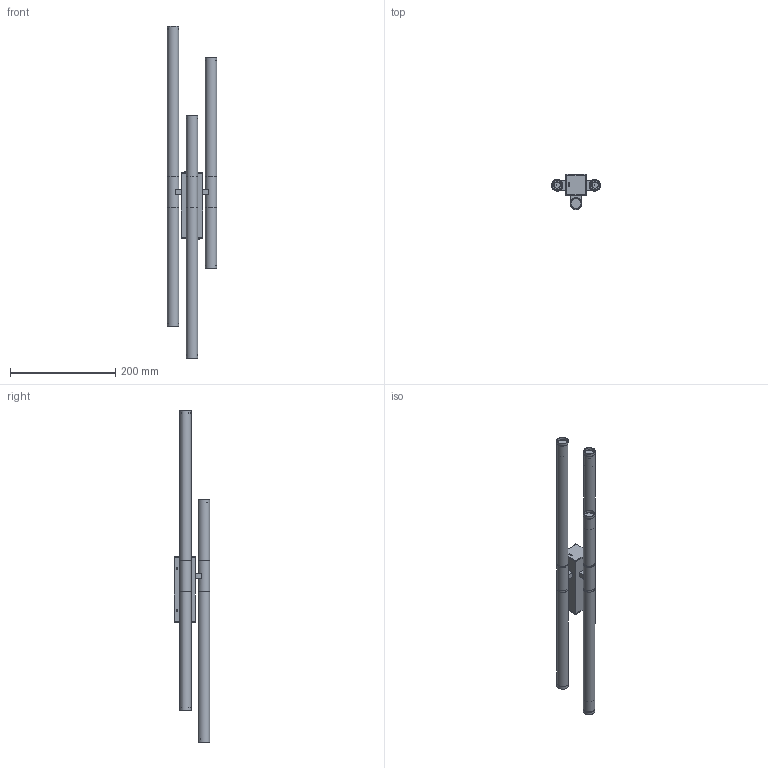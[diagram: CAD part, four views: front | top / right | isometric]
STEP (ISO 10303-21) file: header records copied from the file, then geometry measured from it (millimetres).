
FILE_DESCRIPTION(/* description */ ('EQUALIZER Wall'),/* implementation_level */ '2;1');
FILE_NAME(/* name */ '3D_EQUALIZER_WALL.stp',/* time_stamp */ '2026-10-21T08:34:09+02:00',/* author */ ('Dries'),/* organization */ ('DARK'),/* preprocessor_version */ 'ST-DEVELOPER v20.1',/* originating_system */ 'Autodesk Inventor 2026',/* authorisation */ '');
FILE_SCHEMA (('AUTOMOTIVE_DESIGN { 1 0 10303 214 3 1 1 }'));
Length unit declared in the file: millimetre
Products named in the file (14): 456-9; 456-020; 456-043; 456-044; 456-021; 456-022; 456-046; 456-024; DIN 912 M3 x 16; 456-045; DIN 916 M3 x 8; 3,5W LED mod; 456-027; KGP CC15W xx TRIAC
Assembly tree (38 placements, depth 2):
  456-9
    456-020  x3
    456-043
    456-044  x3
    456-021  x2
    456-022  x2
    456-046  x2
    456-024  x6
    DIN 912 M3 x 16  x6
    456-045
    DIN 916 M3 x 8  x4
    KGP CC15W xx TRIAC  x2
    3,5W LED mod  x3
    456-027  x3
Bounding box: 94 x 67 x 630 mm (x, y, z)
Volume: 332153.1 mm3; surface area: 266461.9 mm2
Topology: 38 solids, 38 shells, 985 faces, 2383 edges, 1560 vertices
Faces by surface type: plane 569, cylinder 346, cone 56, sphere 8, torus 6
Full cylindrical faces by diameter (mm): 2.459 x10, 3 x23, 3.2 x6, 3.5 x6, 4 x3, 5.5 x6, 7 x3, 8 x3, 9 x3, 18 x12, 18.8 x3, 18.917 x6, 19 x6, 19.9 x6, 20 x6, 20.5 x6, 22 x9
Entity records: 12166 total; most frequent: CARTESIAN_POINT 2245, DIRECTION 1989, ORIENTED_EDGE 1798, EDGE_CURVE 899, AXIS2_PLACEMENT_3D 687, LINE 615, VECTOR 615, VERTEX_POINT 584
